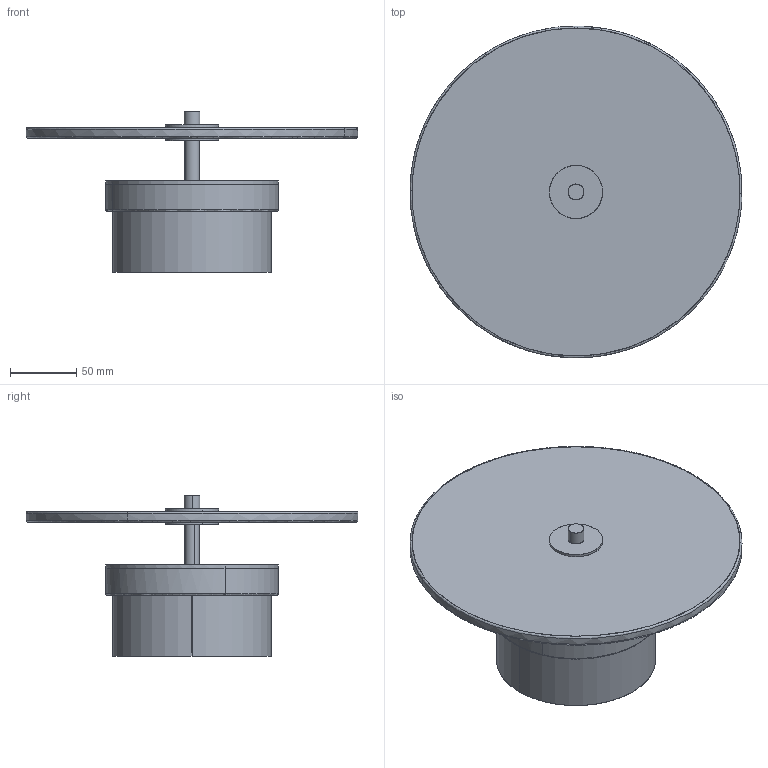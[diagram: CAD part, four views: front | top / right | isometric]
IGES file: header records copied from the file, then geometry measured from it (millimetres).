
Start section: SolidWorks IGES file using analytic representation for surfaces
Global section: file name: C:\Users\adrian\Desktop\MODELADOS USA\SUAL\SUAL_AU1255.IGS; native system: SolidWorks 2023; preprocessor: SolidWorks 2023; author: adrian; date: 260608.170831; units: inch
Bounding box: 249.99 x 249.95 x 120.97 mm (x, y, z)
Surface area: 213260.2 mm2 (no closed solid volume)
Topology: 0 solids, 0 shells, 39 faces, 1056 edges, 1056 vertices
Faces by surface type: bspline 37, revolution 2
